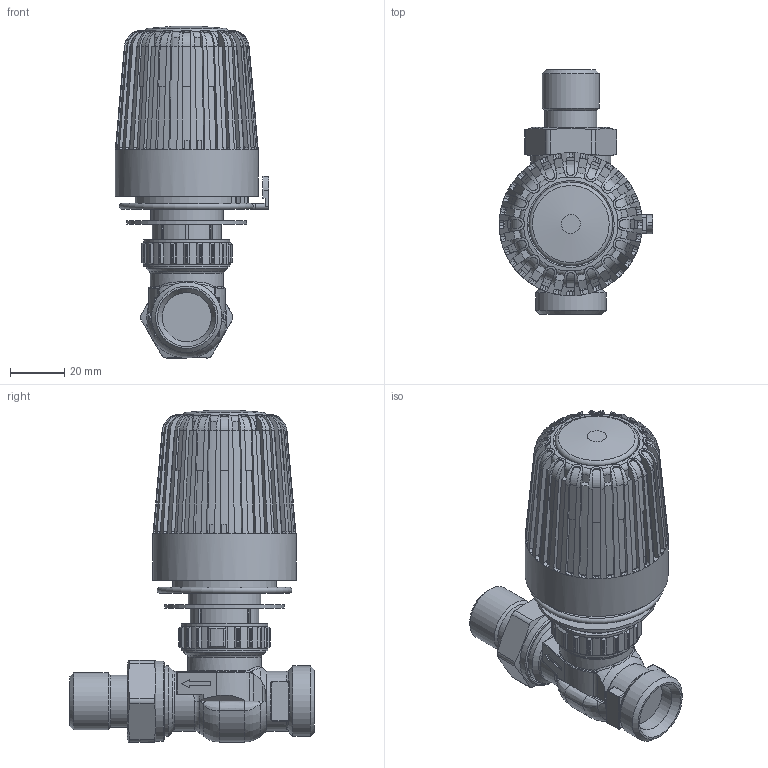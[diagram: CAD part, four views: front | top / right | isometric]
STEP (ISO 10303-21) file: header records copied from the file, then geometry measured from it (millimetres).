
FILE_DESCRIPTION(('STEP AP203'), '1');
FILE_NAME('VT.9154.02800.0405E', '2024-06-28T13:04:17', ('User'), ('Vesta'), 'C3D Converter', 'C3D Toolkit', '');
FILE_SCHEMA(('CONFIG_CONTROL_DESIGN'));
Length unit declared in the file: millimetre
Products named in the file (1): ВР.493171.002.000 СБ
Bounding box: 56.55 x 89.93 x 122.2 mm (x, y, z)
Volume: 181945 mm3; surface area: 36399.5 mm2
Topology: 1 solids, 5 shells, 1191 faces, 3074 edges, 1902 vertices
Faces by surface type: plane 493, cylinder 437, cone 121, torus 74, bspline 66
Full cylindrical faces by diameter (mm): 16 x1, 18.1 x1, 19.1 x1, 20.955 x1, 21.2 x1, 22 x2, 25.95 x2, 26.5 x1, 26.7 x1, 27 x1, 29.5 x1, 30 x1, 30.8 x1, 31.7 x2, 44 x1, 52.7 x1
Entity records: 53900 total; most frequent: CARTESIAN_POINT 26711, ORIENTED_EDGE 6040, DIRECTION 5151, EDGE_CURVE 3020, AXIS2_PLACEMENT_3D 2014, VERTEX_POINT 1907, EDGE_LOOP 1253, FACE_BOUND 1194
